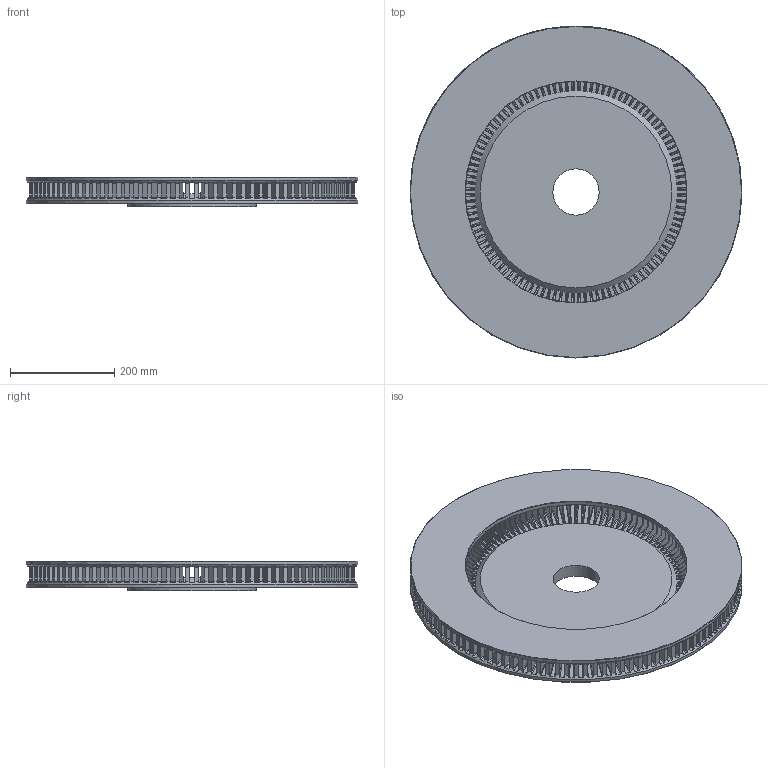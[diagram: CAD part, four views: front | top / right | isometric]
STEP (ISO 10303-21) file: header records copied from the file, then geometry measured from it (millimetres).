
FILE_DESCRIPTION (( 'STEP AP214' ), '1' );
FILE_NAME ('2-4-25.STEP', '2017-11-29T18:47:38', ( '' ), ( '' ), 'SwSTEP 2.0', 'SolidWorks 2017', '' );
FILE_SCHEMA (( 'AUTOMOTIVE_DESIGN' ));
Length unit declared in the file: inch
Products named in the file (1): 2-4-25
Bounding box: 637.54 x 637.54 x 57.15 mm (x, y, z)
Volume: 7699165.5 mm3; surface area: 1642515.3 mm2
Topology: 1 solids, 1 shells, 1420 faces, 4567 edges, 2935 vertices
Faces by surface type: cylinder 653, plane 652, cone 115
Full cylindrical faces by diameter (mm): 88.9 x1, 247.65 x1, 424.815 x1, 637.54 x2
Entity records: 58684 total; most frequent: CARTESIAN_POINT 22093, ORIENTED_EDGE 9100, DIRECTION 6110, EDGE_CURVE 4550, VERTEX_POINT 2930, AXIS2_PLACEMENT_3D 2299, B_SPLINE_CURVE_WITH_KNOTS 1944, LINE 1512
